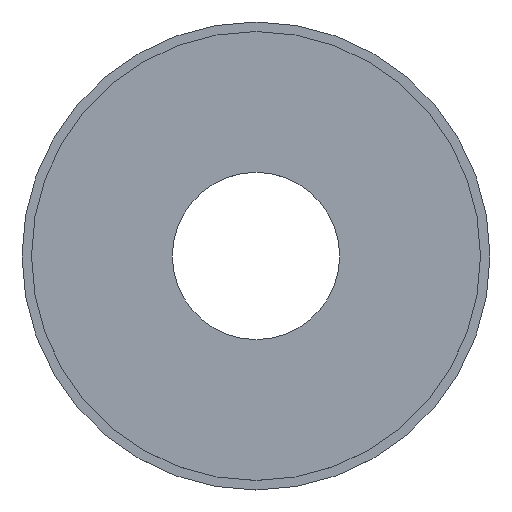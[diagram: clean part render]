
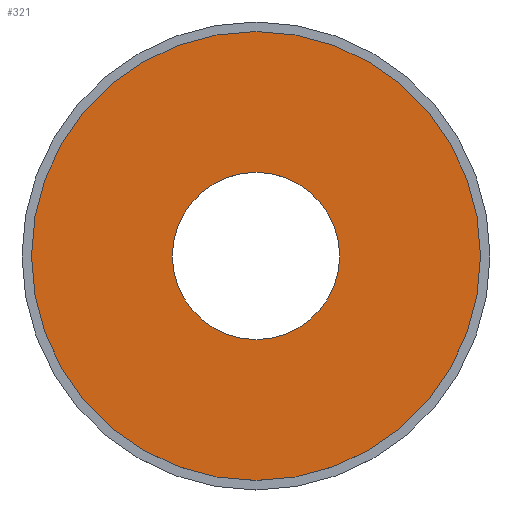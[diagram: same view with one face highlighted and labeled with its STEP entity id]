
A CAD part, top view. The second image highlights one B-rep face of the part: STEP entity #321.
In plain terms, the highlighted planar face has unit normal (0, 0, 1).
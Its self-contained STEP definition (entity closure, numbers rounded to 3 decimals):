
#243 = VERTEX_POINT('',#244);
#244 = CARTESIAN_POINT('',(31.15,61.3,13.55));
#250 = EDGE_CURVE('',#243,#243,#251,.T.);
#251 = CIRCLE('',#252,6.15);
#252 = AXIS2_PLACEMENT_3D('',#253,#254,#255);
#253 = CARTESIAN_POINT('',(25.,61.3,13.55));
#254 = DIRECTION('',(0.,0.,-1.));
#255 = DIRECTION('',(1.,0.,0.));
#321 = ADVANCED_FACE('',(#322,#333),#336,.T.);
#322 = FACE_BOUND('',#323,.T.);
#323 = EDGE_LOOP('',(#324));
#324 = ORIENTED_EDGE('',*,*,#325,.T.);
#325 = EDGE_CURVE('',#326,#326,#328,.T.);
#326 = VERTEX_POINT('',#327);
#327 = CARTESIAN_POINT('',(41.5,61.3,13.55));
#328 = CIRCLE('',#329,16.5);
#329 = AXIS2_PLACEMENT_3D('',#330,#331,#332);
#330 = CARTESIAN_POINT('',(25.,61.3,13.55));
#331 = DIRECTION('',(0.,0.,1.));
#332 = DIRECTION('',(1.,0.,0.));
#333 = FACE_BOUND('',#334,.T.);
#334 = EDGE_LOOP('',(#335));
#335 = ORIENTED_EDGE('',*,*,#250,.T.);
#336 = PLANE('',#337);
#337 = AXIS2_PLACEMENT_3D('',#338,#339,#340);
#338 = CARTESIAN_POINT('',(25.,61.3,13.55));
#339 = DIRECTION('',(0.,0.,1.));
#340 = DIRECTION('',(1.,0.,0.));
